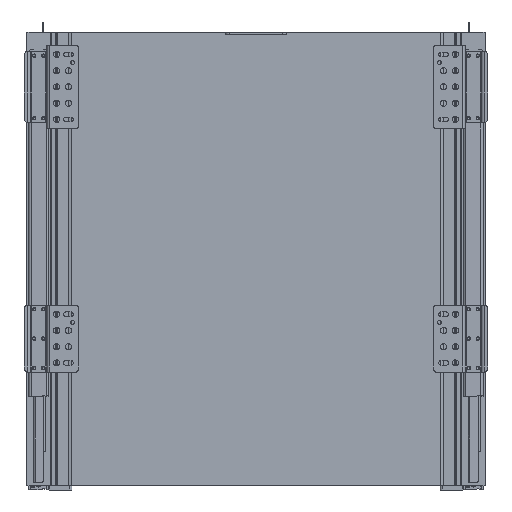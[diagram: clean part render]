
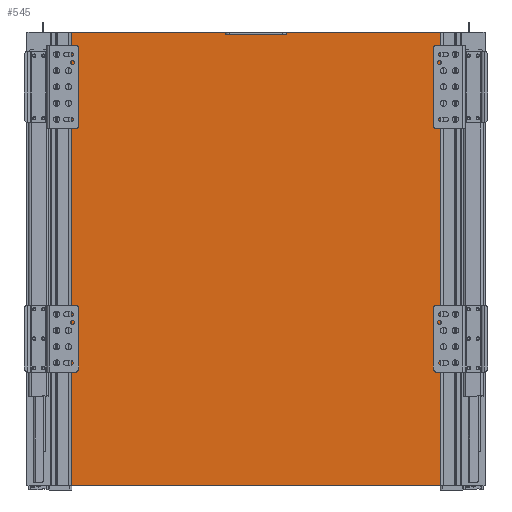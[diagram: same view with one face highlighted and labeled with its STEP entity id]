
A CAD part, front view. The second image highlights one B-rep face of the part: STEP entity #545.
In plain terms, the highlighted planar face has unit normal (0, -1, 0).
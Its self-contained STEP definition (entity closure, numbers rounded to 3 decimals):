
#114=DIRECTION('',(0.,0.,-1.));
#115=VECTOR('',#114,447.);
#116=CARTESIAN_POINT('',(-202.,0.,0.));
#117=LINE('',#116,#115);
#199=DIRECTION('',(0.,0.,-1.));
#200=VECTOR('',#199,2.8);
#201=CARTESIAN_POINT('',(30.,0.,0.));
#202=LINE('',#201,#200);
#203=DIRECTION('',(1.,0.,0.));
#204=VECTOR('',#203,60.);
#205=CARTESIAN_POINT('',(-30.,0.,-2.8));
#206=LINE('',#205,#204);
#207=DIRECTION('',(1.,0.,0.));
#208=VECTOR('',#207,172.);
#209=CARTESIAN_POINT('',(30.,0.,0.));
#210=LINE('',#209,#208);
#211=DIRECTION('',(0.,0.,-1.));
#212=VECTOR('',#211,447.);
#213=CARTESIAN_POINT('',(202.,0.,0.));
#214=LINE('',#213,#212);
#215=DIRECTION('',(1.,0.,0.));
#216=VECTOR('',#215,172.);
#217=CARTESIAN_POINT('',(-202.,0.,0.));
#218=LINE('',#217,#216);
#219=DIRECTION('',(0.,0.,-1.));
#220=VECTOR('',#219,2.8);
#221=CARTESIAN_POINT('',(-30.,0.,0.));
#222=LINE('',#221,#220);
#227=DIRECTION('',(1.,0.,0.));
#228=VECTOR('',#227,404.);
#229=CARTESIAN_POINT('',(-202.,0.,-447.));
#230=LINE('',#229,#228);
#253=CARTESIAN_POINT('',(30.,0.,-2.8));
#254=VERTEX_POINT('',#253);
#255=CARTESIAN_POINT('',(-30.,0.,-2.8));
#256=VERTEX_POINT('',#255);
#259=CARTESIAN_POINT('',(-30.,0.,0.));
#260=VERTEX_POINT('',#259);
#261=CARTESIAN_POINT('',(-202.,0.,0.));
#262=VERTEX_POINT('',#261);
#267=CARTESIAN_POINT('',(202.,0.,0.));
#268=VERTEX_POINT('',#267);
#269=CARTESIAN_POINT('',(30.,0.,0.));
#270=VERTEX_POINT('',#269);
#271=CARTESIAN_POINT('',(202.,0.,-447.));
#272=VERTEX_POINT('',#271);
#273=CARTESIAN_POINT('',(-202.,0.,-447.));
#274=VERTEX_POINT('',#273);
#528=CARTESIAN_POINT('',(-202.,0.,0.));
#529=DIRECTION('',(0.,-1.,0.));
#530=DIRECTION('',(1.,0.,0.));
#531=AXIS2_PLACEMENT_3D('',#528,#529,#530);
#532=PLANE('',#531);
#533=ORIENTED_EDGE('',*,*,#482,.T.);
#534=ORIENTED_EDGE('',*,*,#522,.F.);
#535=ORIENTED_EDGE('',*,*,#444,.T.);
#536=ORIENTED_EDGE('',*,*,#341,.T.);
#538=ORIENTED_EDGE('',*,*,#537,.F.);
#539=ORIENTED_EDGE('',*,*,#382,.F.);
#540=ORIENTED_EDGE('',*,*,#439,.T.);
#542=ORIENTED_EDGE('',*,*,#541,.T.);
#543=EDGE_LOOP('',(#533,#534,#535,#536,#538,#539,#540,#542));
#544=FACE_OUTER_BOUND('',#543,.F.);
#341=EDGE_CURVE('',#268,#272,#214,.T.);
#382=EDGE_CURVE('',#262,#274,#117,.T.);
#439=EDGE_CURVE('',#262,#260,#218,.T.);
#444=EDGE_CURVE('',#270,#268,#210,.T.);
#482=EDGE_CURVE('',#256,#254,#206,.T.);
#522=EDGE_CURVE('',#270,#254,#202,.T.);
#537=EDGE_CURVE('',#274,#272,#230,.T.);
#541=EDGE_CURVE('',#260,#256,#222,.T.);
#545=ADVANCED_FACE('',(#544),#532,.T.);
